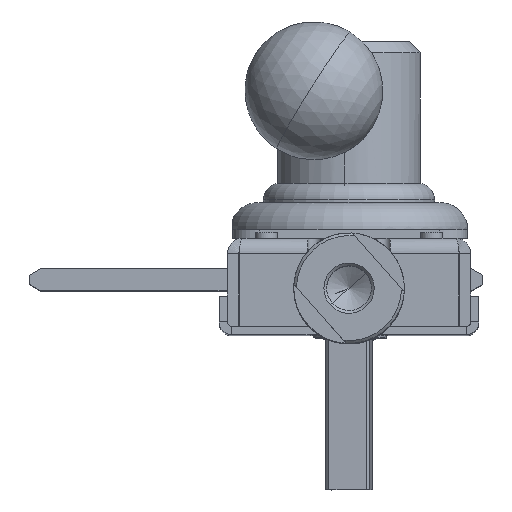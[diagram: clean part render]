
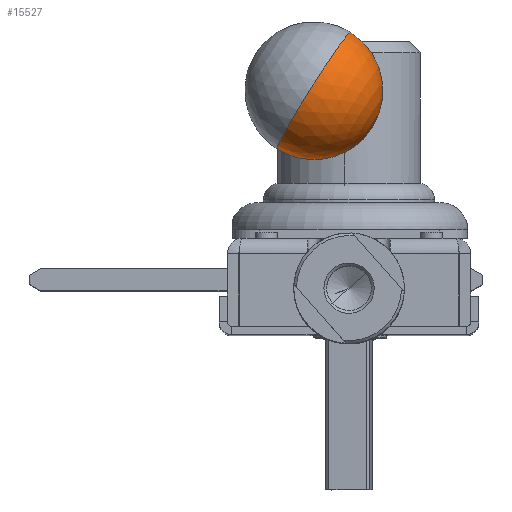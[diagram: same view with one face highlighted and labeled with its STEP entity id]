
A CAD part, top view. The second image highlights one B-rep face of the part: STEP entity #15527.
In plain terms, the highlighted spherical face has radius 12.5 mm.
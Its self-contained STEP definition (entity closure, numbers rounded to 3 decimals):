
#244 = DIRECTION ( 'NONE',  ( 0., 0., 1. ) ) ;
#361 = DIRECTION ( 'NONE',  ( 0., 0., -1. ) ) ;
#615 = DIRECTION ( 'NONE',  ( -1., 0., 0. ) ) ;
#626 = VERTEX_POINT ( 'NONE', #28183 ) ;
#3023 = CARTESIAN_POINT ( 'NONE',  ( 0., 0., 0. ) ) ;
#3026 = DIRECTION ( 'NONE',  ( 1., 0., 0. ) ) ;
#3681 = CIRCLE ( 'NONE', #16728, 12.5 ) ;
#4507 = ORIENTED_EDGE ( 'NONE', *, *, #13045, .T. ) ;
#4916 = VERTEX_POINT ( 'NONE', #30074 ) ;
#5652 = DIRECTION ( 'NONE',  ( -1., 0., 0. ) ) ;
#5852 = CIRCLE ( 'NONE', #24819, 7.5 ) ;
#8679 = EDGE_CURVE ( 'NONE', #24695, #626, #16632, .T. ) ;
#9774 = SPHERICAL_SURFACE ( 'NONE', #10968, 12.5 ) ;
#10385 = EDGE_CURVE ( 'NONE', #24695, #4916, #5852, .T. ) ;
#10968 = AXIS2_PLACEMENT_3D ( 'NONE', #16121, #361, #3026 ) ;
#12705 = ORIENTED_EDGE ( 'NONE', *, *, #8679, .F. ) ;
#13045 = EDGE_CURVE ( 'NONE', #4916, #626, #3681, .T. ) ;
#15344 = CARTESIAN_POINT ( 'NONE',  ( 7.5, -10., 0. ) ) ;
#15527 = ADVANCED_FACE ( 'NONE', ( #30740 ), #9774, .T. ) ;
#15769 = AXIS2_PLACEMENT_3D ( 'NONE', #15986, #244, #18627 ) ;
#15986 = CARTESIAN_POINT ( 'NONE',  ( 0., 0., 0. ) ) ;
#16121 = CARTESIAN_POINT ( 'NONE',  ( 0., 0., 0. ) ) ;
#16348 = DIRECTION ( 'NONE',  ( 0., 1., 0. ) ) ;
#16632 = CIRCLE ( 'NONE', #15769, 12.5 ) ;
#16728 = AXIS2_PLACEMENT_3D ( 'NONE', #3023, #21376, #5652 ) ;
#18627 = DIRECTION ( 'NONE',  ( 1., 0., 0. ) ) ;
#20825 = ORIENTED_EDGE ( 'NONE', *, *, #10385, .T. ) ;
#21376 = DIRECTION ( 'NONE',  ( 0., 0., -1. ) ) ;
#24695 = VERTEX_POINT ( 'NONE', #15344 ) ;
#24819 = AXIS2_PLACEMENT_3D ( 'NONE', #32092, #16348, #615 ) ;
#27605 = EDGE_LOOP ( 'NONE', ( #20825, #4507, #12705 ) ) ;
#28183 = CARTESIAN_POINT ( 'NONE',  ( 0., 12.5, 0. ) ) ;
#30074 = CARTESIAN_POINT ( 'NONE',  ( -7.5, -10., 0. ) ) ;
#30740 = FACE_OUTER_BOUND ( 'NONE', #27605, .T. ) ;
#32092 = CARTESIAN_POINT ( 'NONE',  ( 0., -10., 0. ) ) ;
